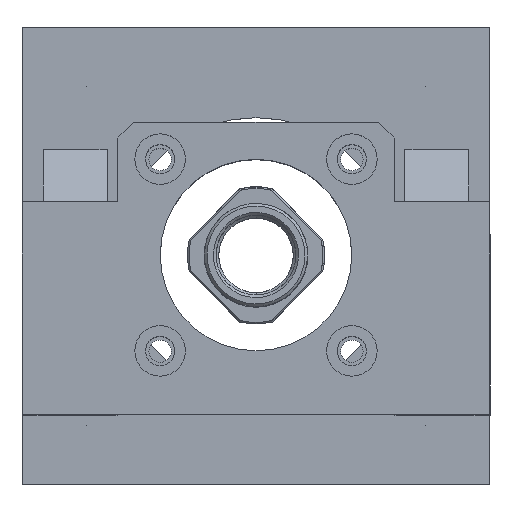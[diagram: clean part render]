
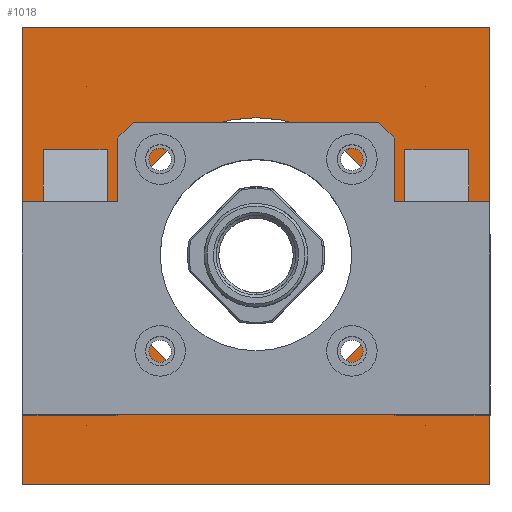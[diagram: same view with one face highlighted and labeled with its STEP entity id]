
A CAD part, top view. The second image highlights one B-rep face of the part: STEP entity #1018.
In plain terms, the highlighted planar face has unit normal (0, 0, 1).
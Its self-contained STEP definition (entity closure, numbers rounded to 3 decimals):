
#645=FACE_BOUND('',#1435,.T.);
#646=FACE_BOUND('',#1436,.T.);
#647=FACE_BOUND('',#1437,.T.);
#648=FACE_BOUND('',#1438,.T.);
#849=CIRCLE('',#3784,26.);
#1018=ADVANCED_FACE('',(#645,#646,#647,#648),#1223,.F.);
#1223=PLANE('',#3785);
#1435=EDGE_LOOP('',(#1780,#1781,#1782,#1783));
#1436=EDGE_LOOP('',(#1784,#1785,#1786,#1787));
#1437=EDGE_LOOP('',(#1788));
#1438=EDGE_LOOP('',(#1789,#1790,#1791,#1792));
#1780=ORIENTED_EDGE('',*,*,#2956,.F.);
#1781=ORIENTED_EDGE('',*,*,#2957,.F.);
#1782=ORIENTED_EDGE('',*,*,#2958,.F.);
#1783=ORIENTED_EDGE('',*,*,#2959,.F.);
#1784=ORIENTED_EDGE('',*,*,#2960,.F.);
#1785=ORIENTED_EDGE('',*,*,#2961,.F.);
#1786=ORIENTED_EDGE('',*,*,#2962,.F.);
#1787=ORIENTED_EDGE('',*,*,#2963,.F.);
#1788=ORIENTED_EDGE('',*,*,#2964,.T.);
#1789=ORIENTED_EDGE('',*,*,#2965,.T.);
#1790=ORIENTED_EDGE('',*,*,#2966,.F.);
#1791=ORIENTED_EDGE('',*,*,#2967,.F.);
#1792=ORIENTED_EDGE('',*,*,#2968,.F.);
#2646=VERTEX_POINT('',#5166);
#2647=VERTEX_POINT('',#5167);
#2648=VERTEX_POINT('',#5169);
#2649=VERTEX_POINT('',#5171);
#2650=VERTEX_POINT('',#5174);
#2651=VERTEX_POINT('',#5175);
#2652=VERTEX_POINT('',#5177);
#2653=VERTEX_POINT('',#5179);
#2654=VERTEX_POINT('',#5182);
#2655=VERTEX_POINT('',#5184);
#2656=VERTEX_POINT('',#5185);
#2657=VERTEX_POINT('',#5187);
#2658=VERTEX_POINT('',#5189);
#2956=EDGE_CURVE('',#2646,#2647,#3386,.T.);
#2957=EDGE_CURVE('',#2648,#2646,#3387,.T.);
#2958=EDGE_CURVE('',#2649,#2648,#3388,.T.);
#2959=EDGE_CURVE('',#2647,#2649,#3389,.T.);
#2960=EDGE_CURVE('',#2650,#2651,#3390,.T.);
#2961=EDGE_CURVE('',#2652,#2650,#3391,.T.);
#2962=EDGE_CURVE('',#2653,#2652,#3392,.T.);
#2963=EDGE_CURVE('',#2651,#2653,#3393,.T.);
#2964=EDGE_CURVE('',#2654,#2654,#849,.T.);
#2965=EDGE_CURVE('',#2655,#2656,#3394,.T.);
#2966=EDGE_CURVE('',#2657,#2656,#3395,.T.);
#2967=EDGE_CURVE('',#2658,#2657,#3396,.T.);
#2968=EDGE_CURVE('',#2655,#2658,#3397,.T.);
#3386=LINE('',#5165,#3594);
#3387=LINE('',#5168,#3595);
#3388=LINE('',#5170,#3596);
#3389=LINE('',#5172,#3597);
#3390=LINE('',#5173,#3598);
#3391=LINE('',#5176,#3599);
#3392=LINE('',#5178,#3600);
#3393=LINE('',#5180,#3601);
#3394=LINE('',#5183,#3602);
#3395=LINE('',#5186,#3603);
#3396=LINE('',#5188,#3604);
#3397=LINE('',#5190,#3605);
#3594=VECTOR('',#4196,1.);
#3595=VECTOR('',#4197,1.);
#3596=VECTOR('',#4198,1.);
#3597=VECTOR('',#4199,1.);
#3598=VECTOR('',#4200,1.);
#3599=VECTOR('',#4201,1.);
#3600=VECTOR('',#4202,1.);
#3601=VECTOR('',#4203,1.);
#3602=VECTOR('',#4206,1.);
#3603=VECTOR('',#4207,1.);
#3604=VECTOR('',#4208,1.);
#3605=VECTOR('',#4209,1.);
#3784=AXIS2_PLACEMENT_3D('',#5181,#4204,#4205);
#3785=AXIS2_PLACEMENT_3D('',#5191,#4210,#4211);
#4196=DIRECTION('',(1.,0.,0.));
#4197=DIRECTION('',(0.,1.,0.));
#4198=DIRECTION('',(-1.,0.,0.));
#4199=DIRECTION('',(0.,-1.,0.));
#4200=DIRECTION('',(0.,-1.,0.));
#4201=DIRECTION('',(-1.,0.,0.));
#4202=DIRECTION('',(0.,1.,0.));
#4203=DIRECTION('',(1.,0.,0.));
#4204=DIRECTION('',(0.,0.,-1.));
#4205=DIRECTION('',(-1.,0.,0.));
#4206=DIRECTION('',(1.,0.,0.));
#4207=DIRECTION('',(0.,1.,0.));
#4208=DIRECTION('',(1.,0.,0.));
#4209=DIRECTION('',(0.,-1.,0.));
#4210=DIRECTION('',(0.,0.,-1.));
#4211=DIRECTION('',(-1.,0.,0.));
#5165=CARTESIAN_POINT('',(-44.,43.,105.));
#5166=CARTESIAN_POINT('',(-44.,43.,105.));
#5167=CARTESIAN_POINT('',(44.,43.,105.));
#5168=CARTESIAN_POINT('',(-44.,-43.,105.));
#5169=CARTESIAN_POINT('',(-44.,-43.,105.));
#5170=CARTESIAN_POINT('',(44.,-43.,105.));
#5171=CARTESIAN_POINT('',(44.,-43.,105.));
#5172=CARTESIAN_POINT('',(44.,43.,105.));
#5173=CARTESIAN_POINT('',(28.,4.,105.));
#5174=CARTESIAN_POINT('',(28.,20.,105.));
#5175=CARTESIAN_POINT('',(28.,-30.,105.));
#5176=CARTESIAN_POINT('',(40.,20.,105.));
#5177=CARTESIAN_POINT('',(40.,20.,105.));
#5178=CARTESIAN_POINT('',(40.,-30.,105.));
#5179=CARTESIAN_POINT('',(40.,-30.,105.));
#5180=CARTESIAN_POINT('',(28.,-30.,105.));
#5181=CARTESIAN_POINT('',(0.,0.,105.));
#5182=CARTESIAN_POINT('',(-26.,0.,105.));
#5183=CARTESIAN_POINT('',(-40.,20.,105.));
#5184=CARTESIAN_POINT('',(-40.,20.,105.));
#5185=CARTESIAN_POINT('',(-28.,20.,105.));
#5186=CARTESIAN_POINT('',(-28.,-30.,105.));
#5187=CARTESIAN_POINT('',(-28.,-30.,105.));
#5188=CARTESIAN_POINT('',(-40.,-30.,105.));
#5189=CARTESIAN_POINT('',(-40.,-30.,105.));
#5190=CARTESIAN_POINT('',(-40.,4.,105.));
#5191=CARTESIAN_POINT('',(0.,0.,105.));
